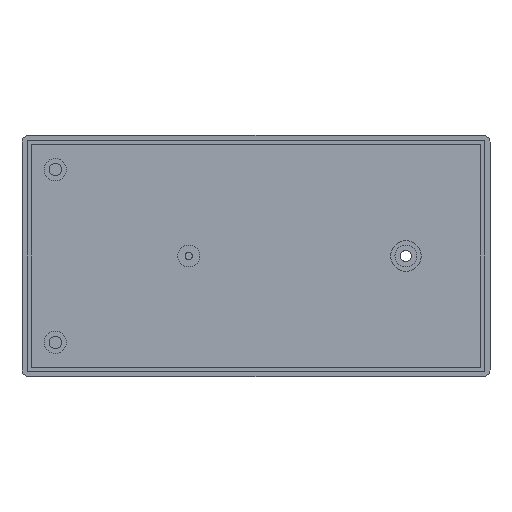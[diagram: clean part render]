
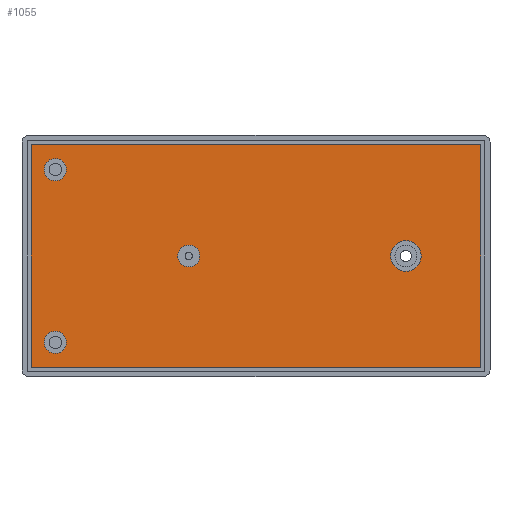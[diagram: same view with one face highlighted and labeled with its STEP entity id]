
A CAD part, front view. The second image highlights one B-rep face of the part: STEP entity #1055.
In plain terms, the highlighted planar face has unit normal (0, -1, 0).
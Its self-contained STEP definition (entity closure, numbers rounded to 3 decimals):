
#9 = AXIS2_PLACEMENT_3D ( 'NONE', #1322, #1300, #1295 ) ;
#57 = VERTEX_POINT ( 'NONE', #1235 ) ;
#80 = VERTEX_POINT ( 'NONE', #1027 ) ;
#82 = EDGE_LOOP ( 'NONE', ( #794, #827 ) ) ;
#90 = AXIS2_PLACEMENT_3D ( 'NONE', #259, #253, #245 ) ;
#101 = AXIS2_PLACEMENT_3D ( 'NONE', #1005, #236, #1119 ) ;
#106 = VERTEX_POINT ( 'NONE', #1024 ) ;
#121 = DIRECTION ( 'NONE',  ( 0., -1., 0. ) ) ;
#145 = VECTOR ( 'NONE', #1513, 1000. ) ;
#178 = CIRCLE ( 'NONE', #840, 2.55 ) ;
#182 = EDGE_CURVE ( 'NONE', #1133, #289, #387, .T. ) ;
#195 = DIRECTION ( 'NONE',  ( 0., 0., -1. ) ) ;
#213 = CARTESIAN_POINT ( 'NONE',  ( -45.8, 17., 19.7 ) ) ;
#216 = CIRCLE ( 'NONE', #847, 2.55 ) ;
#236 = DIRECTION ( 'NONE',  ( 0., -1., 0. ) ) ;
#244 = FACE_BOUND ( 'NONE', #1211, .T. ) ;
#245 = DIRECTION ( 'NONE',  ( 0., 0., -1. ) ) ;
#253 = DIRECTION ( 'NONE',  ( 0., -1., 0. ) ) ;
#259 = CARTESIAN_POINT ( 'NONE',  ( -15.35, 17., 0. ) ) ;
#289 = VERTEX_POINT ( 'NONE', #686 ) ;
#308 = CARTESIAN_POINT ( 'NONE',  ( -15.35, 17., 0. ) ) ;
#315 = DIRECTION ( 'NONE',  ( 0., 0., -1. ) ) ;
#321 = DIRECTION ( 'NONE',  ( 0., 0., -1. ) ) ;
#354 = CARTESIAN_POINT ( 'NONE',  ( -51.3, 17., 25.4 ) ) ;
#363 = CARTESIAN_POINT ( 'NONE',  ( -45.8, 17., -17.15 ) ) ;
#387 = CIRCLE ( 'NONE', #90, 2.5 ) ;
#410 = VERTEX_POINT ( 'NONE', #1519 ) ;
#424 = VECTOR ( 'NONE', #1289, 1000. ) ;
#435 = DIRECTION ( 'NONE',  ( 0., 0., -1. ) ) ;
#446 = DIRECTION ( 'NONE',  ( 0., -1., 0. ) ) ;
#460 = DIRECTION ( 'NONE',  ( 0., -1., 0. ) ) ;
#468 = LINE ( 'NONE', #1499, #1111 ) ;
#483 = CARTESIAN_POINT ( 'NONE',  ( -45.8, 17., 22.25 ) ) ;
#490 = EDGE_CURVE ( 'NONE', #753, #998, #1023, .T. ) ;
#498 = EDGE_LOOP ( 'NONE', ( #1025, #1050 ) ) ;
#512 = LINE ( 'NONE', #841, #822 ) ;
#531 = EDGE_CURVE ( 'NONE', #106, #1504, #1574, .T. ) ;
#571 = EDGE_CURVE ( 'NONE', #289, #1133, #874, .T. ) ;
#580 = EDGE_CURVE ( 'NONE', #998, #753, #216, .T. ) ;
#588 = CARTESIAN_POINT ( 'NONE',  ( -45.8, 17., -19.7 ) ) ;
#594 = EDGE_CURVE ( 'NONE', #1504, #106, #178, .T. ) ;
#611 = EDGE_CURVE ( 'NONE', #1540, #755, #512, .T. ) ;
#612 = EDGE_CURVE ( 'NONE', #755, #57, #1148, .T. ) ;
#616 = EDGE_CURVE ( 'NONE', #57, #1180, #468, .T. ) ;
#620 = EDGE_CURVE ( 'NONE', #1180, #1540, #1389, .T. ) ;
#622 = EDGE_CURVE ( 'NONE', #410, #80, #1431, .T. ) ;
#626 = CARTESIAN_POINT ( 'NONE',  ( 0., 17., 0. ) ) ;
#634 = CIRCLE ( 'NONE', #101, 3.5 ) ;
#681 = EDGE_LOOP ( 'NONE', ( #946, #969, #986, #1008 ) ) ;
#686 = CARTESIAN_POINT ( 'NONE',  ( -15.35, 17., 2.5 ) ) ;
#722 = DIRECTION ( 'NONE',  ( 0., -1., 0. ) ) ;
#740 = AXIS2_PLACEMENT_3D ( 'NONE', #626, #121, #1018 ) ;
#753 = VERTEX_POINT ( 'NONE', #1149 ) ;
#755 = VERTEX_POINT ( 'NONE', #920 ) ;
#794 = ORIENTED_EDGE ( 'NONE', *, *, #571, .F. ) ;
#822 = VECTOR ( 'NONE', #195, 1000. ) ;
#827 = ORIENTED_EDGE ( 'NONE', *, *, #182, .F. ) ;
#838 = AXIS2_PLACEMENT_3D ( 'NONE', #1182, #1178, #1173 ) ;
#840 = AXIS2_PLACEMENT_3D ( 'NONE', #213, #446, #315 ) ;
#841 = CARTESIAN_POINT ( 'NONE',  ( -51.3, 17., 25.4 ) ) ;
#847 = AXIS2_PLACEMENT_3D ( 'NONE', #588, #460, #435 ) ;
#849 = AXIS2_PLACEMENT_3D ( 'NONE', #308, #722, #321 ) ;
#854 = ORIENTED_EDGE ( 'NONE', *, *, #580, .F. ) ;
#869 = DIRECTION ( 'NONE',  ( 0., 0., -1. ) ) ;
#874 = CIRCLE ( 'NONE', #849, 2.5 ) ;
#876 = DIRECTION ( 'NONE',  ( 0., -1., 0. ) ) ;
#885 = CARTESIAN_POINT ( 'NONE',  ( -45.8, 17., 19.7 ) ) ;
#903 = ORIENTED_EDGE ( 'NONE', *, *, #490, .F. ) ;
#906 = PLANE ( 'NONE',  #740 ) ;
#917 = CARTESIAN_POINT ( 'NONE',  ( -15.35, 17., -2.5 ) ) ;
#918 = EDGE_LOOP ( 'NONE', ( #924, #934 ) ) ;
#920 = CARTESIAN_POINT ( 'NONE',  ( -51.3, 17., -25.4 ) ) ;
#924 = ORIENTED_EDGE ( 'NONE', *, *, #594, .F. ) ;
#934 = ORIENTED_EDGE ( 'NONE', *, *, #531, .F. ) ;
#936 = FACE_OUTER_BOUND ( 'NONE', #681, .T. ) ;
#946 = ORIENTED_EDGE ( 'NONE', *, *, #611, .T. ) ;
#969 = ORIENTED_EDGE ( 'NONE', *, *, #612, .T. ) ;
#972 = FACE_BOUND ( 'NONE', #82, .T. ) ;
#986 = ORIENTED_EDGE ( 'NONE', *, *, #616, .T. ) ;
#998 = VERTEX_POINT ( 'NONE', #363 ) ;
#1005 = CARTESIAN_POINT ( 'NONE',  ( 34.2, 17., 0. ) ) ;
#1008 = ORIENTED_EDGE ( 'NONE', *, *, #620, .T. ) ;
#1011 = AXIS2_PLACEMENT_3D ( 'NONE', #885, #876, #869 ) ;
#1018 = DIRECTION ( 'NONE',  ( 0., 0., -1. ) ) ;
#1023 = CIRCLE ( 'NONE', #9, 2.55 ) ;
#1024 = CARTESIAN_POINT ( 'NONE',  ( -45.8, 17., 17.15 ) ) ;
#1025 = ORIENTED_EDGE ( 'NONE', *, *, #622, .F. ) ;
#1027 = CARTESIAN_POINT ( 'NONE',  ( 34.2, 17., -3.5 ) ) ;
#1050 = ORIENTED_EDGE ( 'NONE', *, *, #1493, .F. ) ;
#1055 = ADVANCED_FACE ( 'NONE', ( #972, #244, #1232, #936, #1194 ), #906, .T. ) ;
#1111 = VECTOR ( 'NONE', #1402, 1000. ) ;
#1119 = DIRECTION ( 'NONE',  ( 0., 0., -1. ) ) ;
#1133 = VERTEX_POINT ( 'NONE', #917 ) ;
#1148 = LINE ( 'NONE', #1410, #145 ) ;
#1149 = CARTESIAN_POINT ( 'NONE',  ( -45.8, 17., -22.25 ) ) ;
#1162 = CARTESIAN_POINT ( 'NONE',  ( 51.3, 17., 25.4 ) ) ;
#1173 = DIRECTION ( 'NONE',  ( 0., 0., -1. ) ) ;
#1178 = DIRECTION ( 'NONE',  ( 0., -1., 0. ) ) ;
#1180 = VERTEX_POINT ( 'NONE', #1162 ) ;
#1182 = CARTESIAN_POINT ( 'NONE',  ( 34.2, 17., 0. ) ) ;
#1194 = FACE_BOUND ( 'NONE', #498, .T. ) ;
#1211 = EDGE_LOOP ( 'NONE', ( #854, #903 ) ) ;
#1232 = FACE_BOUND ( 'NONE', #918, .T. ) ;
#1235 = CARTESIAN_POINT ( 'NONE',  ( 51.3, 17., -25.4 ) ) ;
#1289 = DIRECTION ( 'NONE',  ( -1., 0., 0. ) ) ;
#1295 = DIRECTION ( 'NONE',  ( 0., 0., -1. ) ) ;
#1300 = DIRECTION ( 'NONE',  ( 0., -1., 0. ) ) ;
#1322 = CARTESIAN_POINT ( 'NONE',  ( -45.8, 17., -19.7 ) ) ;
#1389 = LINE ( 'NONE', #1390, #424 ) ;
#1390 = CARTESIAN_POINT ( 'NONE',  ( -51.3, 17., 25.4 ) ) ;
#1402 = DIRECTION ( 'NONE',  ( 0., 0., 1. ) ) ;
#1410 = CARTESIAN_POINT ( 'NONE',  ( -51.3, 17., -25.4 ) ) ;
#1431 = CIRCLE ( 'NONE', #838, 3.5 ) ;
#1493 = EDGE_CURVE ( 'NONE', #80, #410, #634, .T. ) ;
#1499 = CARTESIAN_POINT ( 'NONE',  ( 51.3, 17., 25.4 ) ) ;
#1504 = VERTEX_POINT ( 'NONE', #483 ) ;
#1513 = DIRECTION ( 'NONE',  ( 1., 0., 0. ) ) ;
#1519 = CARTESIAN_POINT ( 'NONE',  ( 34.2, 17., 3.5 ) ) ;
#1540 = VERTEX_POINT ( 'NONE', #354 ) ;
#1574 = CIRCLE ( 'NONE', #1011, 2.55 ) ;
